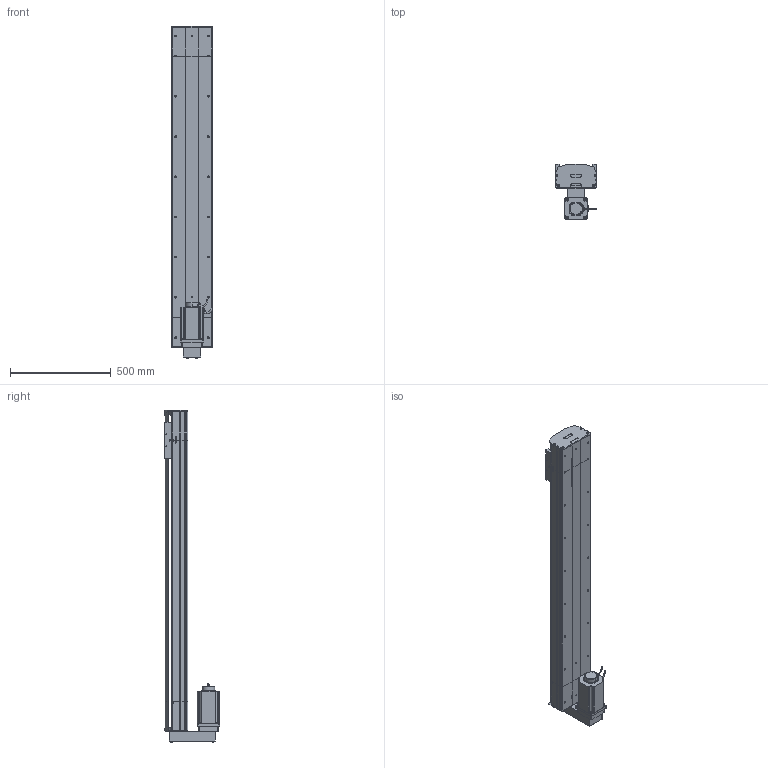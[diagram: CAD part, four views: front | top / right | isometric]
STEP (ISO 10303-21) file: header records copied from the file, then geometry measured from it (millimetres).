
FILE_DESCRIPTION (( 'STEP AP214' ), '1' );
FILE_NAME ('D20 TSH BM S1300.STEP', '2010-06-30T08:43:58', ( 'Conseil Régional Haute-Normandie' ), ( 'Conseil Régional Haute-Normandie' ), 'SwSTEP 2.0', 'SolidWorks 2010', '' );
FILE_SCHEMA (( 'AUTOMOTIVE_DESIGN' ));
Length unit declared in the file: millimetre
Products named in the file (35): tete d''axe haut D20; tete d''axe bas D20; avant 110BLDC170A-630x; corps 110BLDC170A-630x; vis M5 L25_Default; vis M5 L8 90°_Default; 2 vis M5 L12_Default; Conecteur2_Default; codeur 110BLDC170A-630x; couvercle tail D20_Default; plaque de  bout tail D20_Default; Arbre+rail tail D20; Moteur motionking 110BLDC170A-640x; clavette; Conecteur_Default; corpl tail D20 +100_Default; tail D20 +100_Default; Plaque racord D20_Default; vis M5 L70_Default; renvoi  BM_Default; vis M8 L12_Default; chariot D20S_Default; Chariot D20; vis M5 L12_Default; guide D20; rail + arbre  D20 S1300; corp D20 S1300_Default; couvercle head l D20_Default; D20 TSH BM S1300; course D20 L1300_Default; plaque de  bout head BR D20_Default; corpl head MD D20_Default; Arbre+rail head D20; head BM D20_Default; couvercle D20 S1300_Default
Assembly tree (59 placements, depth 4):
  D20 TSH BM S1300
    course D20 L1300_Default
      rail + arbre  D20 S1300
      couvercle D20 S1300_Default
      corp D20 S1300_Default
    tail D20 +100_Default
      tete d''axe bas D20
      vis M5 L25_Default  x2
      2 vis M5 L12_Default  x4
      vis M5 L8 90°_Default  x2
      Arbre+rail tail D20
      couvercle tail D20_Default
      plaque de  bout tail D20_Default
      tete d''axe haut D20
      corpl tail D20 +100_Default
    chariot D20S_Default
      vis M5 L12_Default  x4
      guide D20  x2
      Chariot D20
    head BM D20_Default
      plaque de  bout head BR D20_Default
      vis M8 L12_Default  x4
      Moteur motionking 110BLDC170A-640x
        codeur 110BLDC170A-630x
        avant 110BLDC170A-630x
        Conecteur_Default
        clavette
        corps 110BLDC170A-630x
        Conecteur2_Default
      Plaque racord D20_Default
      vis M5 L70_Default  x4
      corpl head MD D20_Default
      2 vis M5 L12_Default  x6
      Arbre+rail head D20
      couvercle head l D20_Default
      renvoi  BM_Default
      vis M5 L12_Default  x2
      vis M5 L25_Default  x2
Bounding box: 206 x 273.7 x 1651.7 mm (x, y, z)
Volume: 15215291.5 mm3; surface area: 3229554.6 mm2
Topology: 84 solids, 84 shells, 2362 faces, 5996 edges, 3875 vertices
Faces by surface type: plane 1394, cylinder 680, bspline 136, torus 77, cone 71, sphere 4
Entity records: 77891 total; most frequent: CARTESIAN_POINT 25699, ORIENTED_EDGE 9288, DIRECTION 8703, EDGE_CURVE 4644, VERTEX_POINT 3057, VECTOR 3029, LINE 3029, AXIS2_PLACEMENT_3D 2837
